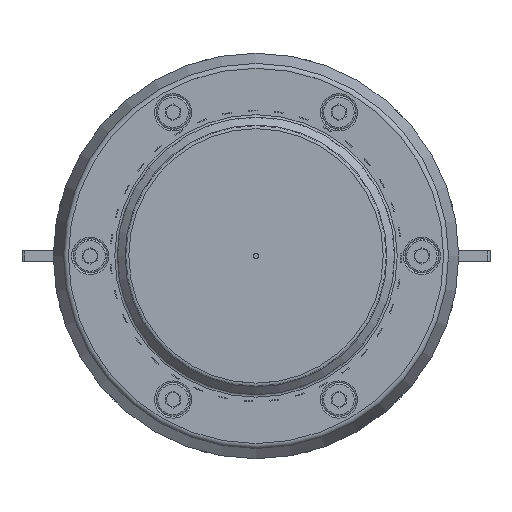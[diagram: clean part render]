
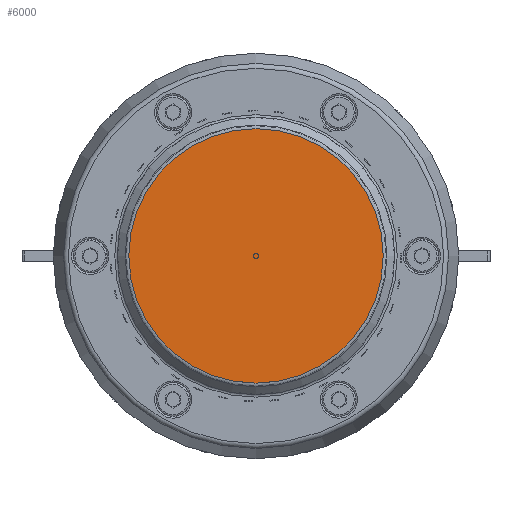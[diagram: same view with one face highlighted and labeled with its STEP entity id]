
A CAD part, top view. The second image highlights one B-rep face of the part: STEP entity #6000.
In plain terms, the highlighted planar face has unit normal (0, 0, 1).
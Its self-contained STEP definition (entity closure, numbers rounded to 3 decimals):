
#6000=ADVANCED_FACE('',(#20893),#20895,.T.);
#20893=FACE_BOUND('',#20894,.T.);
#20894=EDGE_LOOP('',(#92815));
#20895=PLANE('',#20896);
#20896=AXIS2_PLACEMENT_3D('',#20897,#20898,#20899);
#20897=CARTESIAN_POINT('',(0.,0.,0.));
#20898=DIRECTION('',(0.,0.,1.));
#20899=DIRECTION('',(-1.,0.,0.));
#92815=ORIENTED_EDGE('',*,*,#99207,.F.);
#99207=EDGE_CURVE('',#105742,#105742,#105743,.T.);
#105742=VERTEX_POINT('',#140513);
#105743=CIRCLE('',#140514,146.515);
#140513=CARTESIAN_POINT('',(-146.515,0.,0.));
#140514=AXIS2_PLACEMENT_3D('',#140515,#140516,#140517);
#140515=CARTESIAN_POINT('',(0.,0.,0.));
#140516=DIRECTION('',(0.,0.,-1.));
#140517=DIRECTION('',(-1.,0.,0.));
